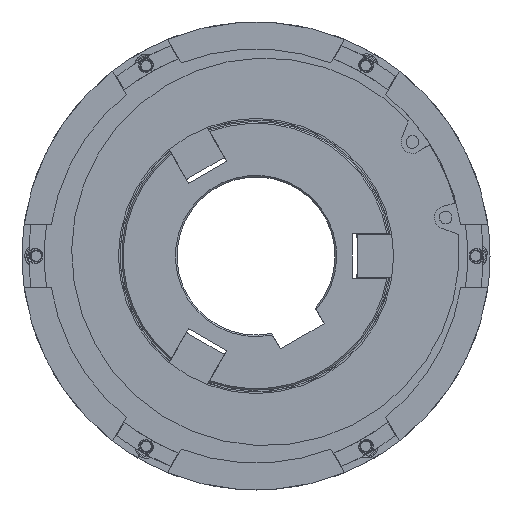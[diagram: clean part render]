
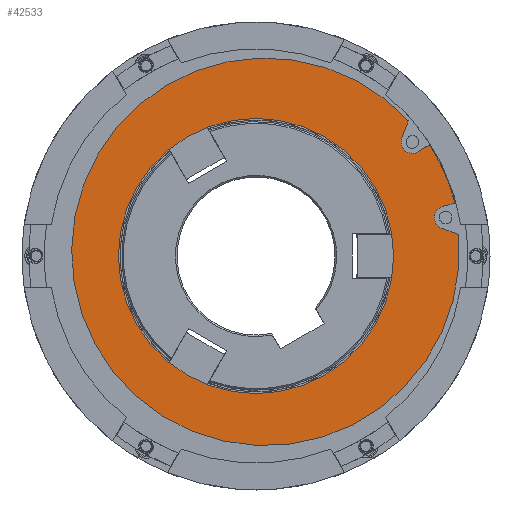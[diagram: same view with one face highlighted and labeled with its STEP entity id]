
A CAD part, left-side view. The second image highlights one B-rep face of the part: STEP entity #42533.
In plain terms, the highlighted planar face has unit normal (-1, 0, 0).
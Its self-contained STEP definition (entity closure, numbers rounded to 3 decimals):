
#2189=FACE_BOUND('',#14853,.T.);
#4347=LINE('',#68702,#8168);
#4350=LINE('',#68710,#8171);
#4354=LINE('',#68719,#8175);
#4357=LINE('',#68738,#8178);
#8168=VECTOR('',#49607,10.);
#8171=VECTOR('',#49616,10.);
#8175=VECTOR('',#49626,10.);
#8178=VECTOR('',#49659,10.);
#10838=PLANE('',#44717);
#12486=FACE_OUTER_BOUND('',#14852,.T.);
#14852=EDGE_LOOP('',(#32365,#32366,#32367,#32368,#32369,#32370,#32371,#32372));
#14853=EDGE_LOOP('',(#32373));
#16547=CIRCLE('',#44690,3.6);
#16548=CIRCLE('',#44693,61.289);
#16549=CIRCLE('',#44696,3.6);
#16565=CIRCLE('',#44718,65.175);
#16566=CIRCLE('',#44719,43.5);
#18932=VERTEX_POINT('',#68660);
#18938=VERTEX_POINT('',#68673);
#18945=VERTEX_POINT('',#68694);
#18946=VERTEX_POINT('',#68696);
#18947=VERTEX_POINT('',#68700);
#18948=VERTEX_POINT('',#68704);
#18949=VERTEX_POINT('',#68708);
#18950=VERTEX_POINT('',#68712);
#18955=VERTEX_POINT('',#68749);
#23774=EDGE_CURVE('',#18946,#18945,#16547,.T.);
#23777=EDGE_CURVE('',#18945,#18947,#4347,.T.);
#23779=EDGE_CURVE('',#18947,#18948,#16548,.T.);
#23781=EDGE_CURVE('',#18948,#18949,#4350,.T.);
#23783=EDGE_CURVE('',#18949,#18950,#16549,.T.);
#23786=EDGE_CURVE('',#18950,#18932,#4354,.T.);
#23802=EDGE_CURVE('',#18938,#18946,#4357,.T.);
#23807=EDGE_CURVE('',#18932,#18938,#16565,.T.);
#23808=EDGE_CURVE('',#18955,#18955,#16566,.T.);
#32365=ORIENTED_EDGE('',*,*,#23802,.T.);
#32366=ORIENTED_EDGE('',*,*,#23774,.T.);
#32367=ORIENTED_EDGE('',*,*,#23777,.T.);
#32368=ORIENTED_EDGE('',*,*,#23779,.T.);
#32369=ORIENTED_EDGE('',*,*,#23781,.T.);
#32370=ORIENTED_EDGE('',*,*,#23783,.T.);
#32371=ORIENTED_EDGE('',*,*,#23786,.T.);
#32372=ORIENTED_EDGE('',*,*,#23807,.T.);
#32373=ORIENTED_EDGE('',*,*,#23808,.T.);
#42533=ADVANCED_FACE('',(#12486,#2189),#10838,.T.);
#44690=AXIS2_PLACEMENT_3D('',#68697,#49601,#49602);
#44693=AXIS2_PLACEMENT_3D('',#68706,#49611,#49612);
#44696=AXIS2_PLACEMENT_3D('',#68714,#49620,#49621);
#44717=AXIS2_PLACEMENT_3D('',#68747,#49670,#49671);
#44718=AXIS2_PLACEMENT_3D('',#68748,#49672,#49673);
#44719=AXIS2_PLACEMENT_3D('',#68750,#49674,#49675);
#49601=DIRECTION('center_axis',(1.,0.,0.));
#49602=DIRECTION('ref_axis',(0.,-0.932,-0.363));
#49607=DIRECTION('',(0.,-0.363,0.932));
#49611=DIRECTION('center_axis',(-1.,0.,0.));
#49612=DIRECTION('ref_axis',(0.,-0.737,0.675));
#49616=DIRECTION('',(0.,0.933,0.361));
#49620=DIRECTION('center_axis',(1.,0.,0.));
#49621=DIRECTION('ref_axis',(0.,-0.256,-0.967));
#49626=DIRECTION('',(0.,-0.967,0.256));
#49659=DIRECTION('',(0.,0.841,-0.54));
#49670=DIRECTION('center_axis',(-1.,0.,0.));
#49671=DIRECTION('ref_axis',(0.,-0.749,0.662));
#49672=DIRECTION('center_axis',(-1.,0.,0.));
#49673=DIRECTION('ref_axis',(0.,-0.989,0.151));
#49674=DIRECTION('center_axis',(1.,0.,0.));
#49675=DIRECTION('ref_axis',(0.,-0.866,0.5));
#68660=CARTESIAN_POINT('',(-65.,-62.996,16.712));
#68673=CARTESIAN_POINT('',(-65.,-54.835,35.227));
#68694=CARTESIAN_POINT('',(-65.,-46.101,37.356));
#68696=CARTESIAN_POINT('',(-65.,-51.401,33.021));
#68697=CARTESIAN_POINT('Origin',(-65.,-49.456,36.05));
#68700=CARTESIAN_POINT('',(-65.,-48.187,42.712));
#68702=CARTESIAN_POINT('',(-65.,-44.73,33.836));
#68704=CARTESIAN_POINT('',(-65.,-64.036,6.755));
#68706=CARTESIAN_POINT('Origin',(-65.,-2.989,1.318));
#68708=CARTESIAN_POINT('',(-65.,-58.676,8.828));
#68710=CARTESIAN_POINT('',(-65.,-11.615,27.027));
#68712=CARTESIAN_POINT('',(-65.,-59.051,15.666));
#68714=CARTESIAN_POINT('Origin',(-65.,-59.975,12.186));
#68719=CARTESIAN_POINT('',(-65.,-20.508,5.441));
#68738=CARTESIAN_POINT('',(-65.,-29.499,18.951));
#68747=CARTESIAN_POINT('Origin',(-65.,35.495,61.032));
#68748=CARTESIAN_POINT('Origin',(-65.,0.,0.));
#68749=CARTESIAN_POINT('',(-65.,37.672,-21.75));
#68750=CARTESIAN_POINT('Origin',(-65.,0.,0.));
